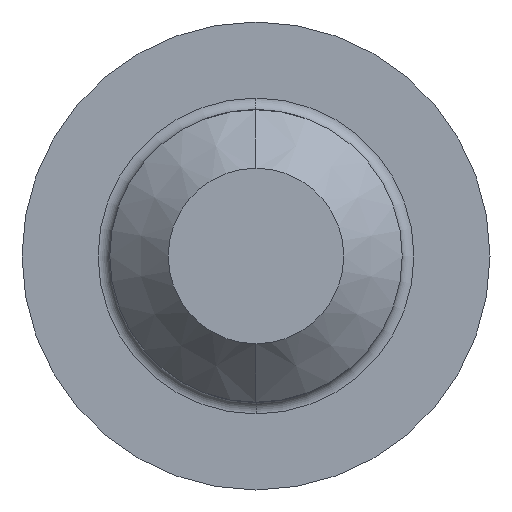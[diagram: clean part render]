
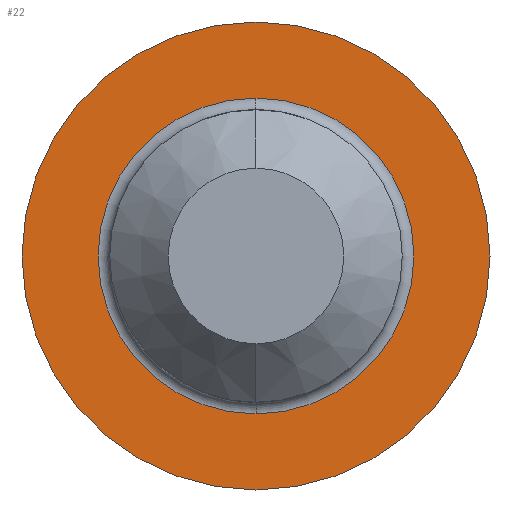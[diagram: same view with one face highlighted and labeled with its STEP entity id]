
A CAD part, left-side view. The second image highlights one B-rep face of the part: STEP entity #22.
In plain terms, the highlighted planar face has unit normal (-1, 0, 0).
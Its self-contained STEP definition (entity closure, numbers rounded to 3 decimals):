
#1 = ORIENTED_EDGE ( 'NONE', *, *, #18, .T. ) ;
#2 = ORIENTED_EDGE ( 'NONE', *, *, #119, .T. ) ;
#11 = EDGE_CURVE ( 'NONE', #92, #59, #166, .T. ) ;
#13 = ORIENTED_EDGE ( 'NONE', *, *, #114, .T. ) ;
#15 = EDGE_LOOP ( 'NONE', ( #1, #2 ) ) ;
#18 = EDGE_CURVE ( 'NONE', #122, #120, #176, .T. ) ;
#22 = ADVANCED_FACE ( 'NONE', ( #328, #327 ), #169, .F. ) ;
#59 = VERTEX_POINT ( 'NONE', #131 ) ;
#92 = VERTEX_POINT ( 'NONE', #211 ) ;
#114 = EDGE_CURVE ( 'NONE', #59, #92, #399, .T. ) ;
#119 = EDGE_CURVE ( 'NONE', #120, #122, #460, .T. ) ;
#120 = VERTEX_POINT ( 'NONE', #406 ) ;
#122 = VERTEX_POINT ( 'NONE', #462 ) ;
#131 = CARTESIAN_POINT ( 'NONE',  ( 0., 0., 4. ) ) ;
#166 = CIRCLE ( 'NONE', #335, 4. ) ;
#167 = CARTESIAN_POINT ( 'NONE',  ( 0., 0., 0. ) ) ;
#168 = AXIS2_PLACEMENT_3D ( 'NONE', #167, #329, #324 ) ;
#169 = PLANE ( 'NONE',  #247 ) ;
#176 = CIRCLE ( 'NONE', #168, 2.7 ) ;
#211 = CARTESIAN_POINT ( 'NONE',  ( 0., 0., -4. ) ) ;
#242 = EDGE_LOOP ( 'NONE', ( #13, #244 ) ) ;
#244 = ORIENTED_EDGE ( 'NONE', *, *, #11, .T. ) ;
#247 = AXIS2_PLACEMENT_3D ( 'NONE', #331, #330, #320 ) ;
#320 = DIRECTION ( 'NONE',  ( 0., 0., -1. ) ) ;
#324 = DIRECTION ( 'NONE',  ( 0., 0., -1. ) ) ;
#327 = FACE_OUTER_BOUND ( 'NONE', #242, .T. ) ;
#328 = FACE_BOUND ( 'NONE', #15, .T. ) ;
#329 = DIRECTION ( 'NONE',  ( 1., 0., 0. ) ) ;
#330 = DIRECTION ( 'NONE',  ( 1., 0., 0. ) ) ;
#331 = CARTESIAN_POINT ( 'NONE',  ( 0., 4., 0. ) ) ;
#332 = DIRECTION ( 'NONE',  ( 0., 0., 1. ) ) ;
#333 = DIRECTION ( 'NONE',  ( -1., 0., 0. ) ) ;
#334 = CARTESIAN_POINT ( 'NONE',  ( 0., 0., 0. ) ) ;
#335 = AXIS2_PLACEMENT_3D ( 'NONE', #334, #333, #332 ) ;
#399 = CIRCLE ( 'NONE', #401, 4. ) ;
#401 = AXIS2_PLACEMENT_3D ( 'NONE', #424, #490, #476 ) ;
#406 = CARTESIAN_POINT ( 'NONE',  ( 0., 0., 2.7 ) ) ;
#424 = CARTESIAN_POINT ( 'NONE',  ( 0., 0., 0. ) ) ;
#460 = CIRCLE ( 'NONE', #514, 2.7 ) ;
#462 = CARTESIAN_POINT ( 'NONE',  ( 0., 0., -2.7 ) ) ;
#476 = DIRECTION ( 'NONE',  ( 0., 0., 1. ) ) ;
#490 = DIRECTION ( 'NONE',  ( -1., 0., 0. ) ) ;
#511 = DIRECTION ( 'NONE',  ( 0., 0., -1. ) ) ;
#512 = DIRECTION ( 'NONE',  ( 1., 0., 0. ) ) ;
#513 = CARTESIAN_POINT ( 'NONE',  ( 0., 0., 0. ) ) ;
#514 = AXIS2_PLACEMENT_3D ( 'NONE', #513, #512, #511 ) ;
